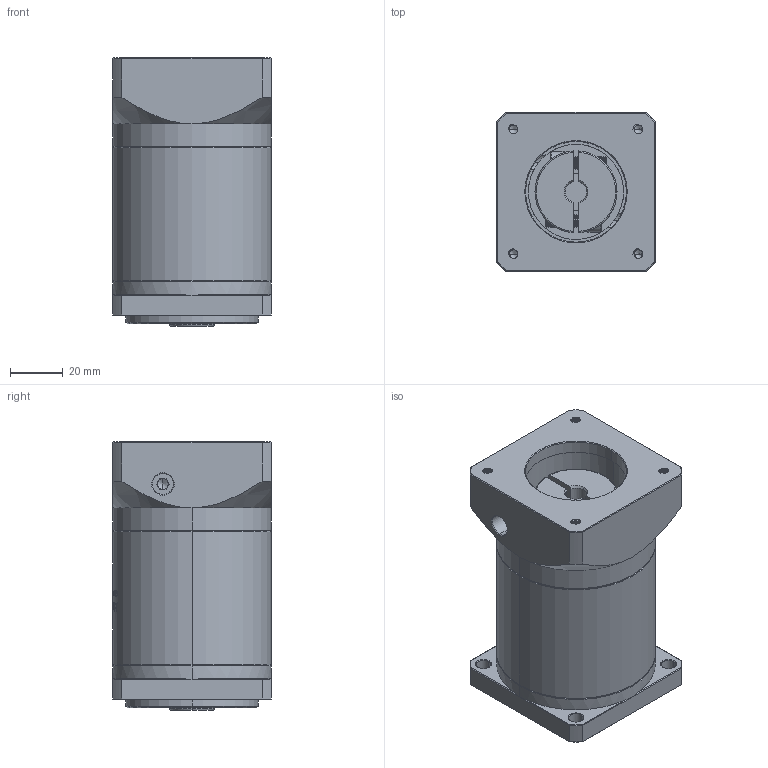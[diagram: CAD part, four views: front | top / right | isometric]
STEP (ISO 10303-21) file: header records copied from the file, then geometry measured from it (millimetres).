
FILE_DESCRIPTION (( 'STEP AP214' ), '1' );
FILE_NAME ('ZF060-K10-L2-P2-8-38.1-47.14X47.14-M4.step', '2023-08-16T04:32:00', ( '' ), ( '' ), 'SwSTEP 2.0', 'SolidWorks 2016', '' );
FILE_SCHEMA (( 'AUTOMOTIVE_DESIGN' ));
Length unit declared in the file: millimetre
Products named in the file (1): ZF060-K10-L2-P2-8-38.1-47.14X47.14-M4
Bounding box: 60 x 60 x 101.5 mm (x, y, z)
Volume: 268919.3 mm3; surface area: 46010.8 mm2
Topology: 6 solids, 6 shells, 1662 faces, 4511 edges, 2931 vertices
Faces by surface type: plane 787, bspline 347, cylinder 289, cone 221, torus 18
Entity records: 89693 total; most frequent: CARTESIAN_POINT 33384, ORIENTED_EDGE 8998, DIRECTION 6466, EDGE_CURVE 4499, VERTEX_POINT 2931, LINE 2308, VECTOR 2308, AXIS2_PLACEMENT_3D 2079
